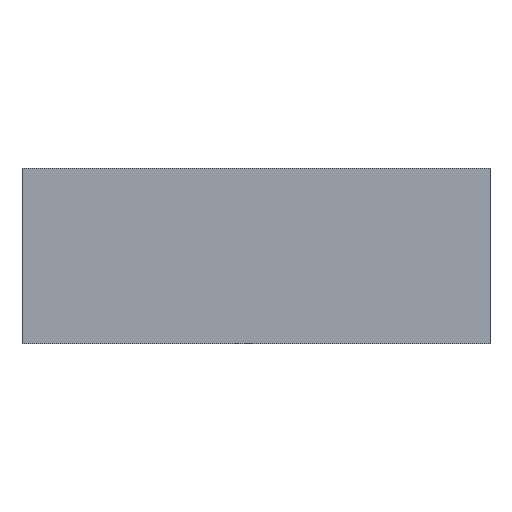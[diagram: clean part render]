
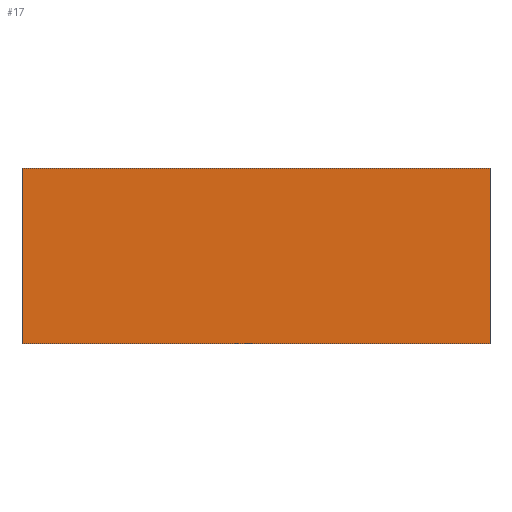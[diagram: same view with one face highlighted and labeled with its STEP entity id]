
A CAD part, front view. The second image highlights one B-rep face of the part: STEP entity #17.
In plain terms, the highlighted planar face has unit normal (0, -1, 0).
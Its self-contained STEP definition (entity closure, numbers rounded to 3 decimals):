
#17 = ADVANCED_FACE('',(#18),#32,.F.);
#18 = FACE_BOUND('',#19,.F.);
#19 = EDGE_LOOP('',(#20,#55,#83,#111));
#20 = ORIENTED_EDGE('',*,*,#21,.T.);
#21 = EDGE_CURVE('',#22,#24,#26,.T.);
#22 = VERTEX_POINT('',#23);
#23 = CARTESIAN_POINT('',(-10.,-370.,0.));
#24 = VERTEX_POINT('',#25);
#25 = CARTESIAN_POINT('',(-10.,-370.,7.5));
#26 = SURFACE_CURVE('',#27,(#31,#43),.PCURVE_S1.);
#27 = LINE('',#28,#29);
#28 = CARTESIAN_POINT('',(-10.,-370.,0.));
#29 = VECTOR('',#30,1.);
#30 = DIRECTION('',(0.,0.,1.));
#31 = PCURVE('',#32,#37);
#32 = PLANE('',#33);
#33 = AXIS2_PLACEMENT_3D('',#34,#35,#36);
#34 = CARTESIAN_POINT('',(-10.,-370.,0.));
#35 = DIRECTION('',(0.,1.,0.));
#36 = DIRECTION('',(1.,0.,0.));
#37 = DEFINITIONAL_REPRESENTATION('',(#38),#42);
#38 = LINE('',#39,#40);
#39 = CARTESIAN_POINT('',(0.,0.));
#40 = VECTOR('',#41,1.);
#41 = DIRECTION('',(0.,-1.));
#42 = ( GEOMETRIC_REPRESENTATION_CONTEXT(2) 
PARAMETRIC_REPRESENTATION_CONTEXT() REPRESENTATION_CONTEXT('2D SPACE',''
  ) );
#43 = PCURVE('',#44,#49);
#44 = PLANE('',#45);
#45 = AXIS2_PLACEMENT_3D('',#46,#47,#48);
#46 = CARTESIAN_POINT('',(-10.,370.,0.));
#47 = DIRECTION('',(1.,0.,-0.));
#48 = DIRECTION('',(0.,-1.,0.));
#49 = DEFINITIONAL_REPRESENTATION('',(#50),#54);
#50 = LINE('',#51,#52);
#51 = CARTESIAN_POINT('',(740.,0.));
#52 = VECTOR('',#53,1.);
#53 = DIRECTION('',(0.,-1.));
#54 = ( GEOMETRIC_REPRESENTATION_CONTEXT(2) 
PARAMETRIC_REPRESENTATION_CONTEXT() REPRESENTATION_CONTEXT('2D SPACE',''
  ) );
#55 = ORIENTED_EDGE('',*,*,#56,.T.);
#56 = EDGE_CURVE('',#24,#57,#59,.T.);
#57 = VERTEX_POINT('',#58);
#58 = CARTESIAN_POINT('',(10.,-370.,7.5));
#59 = SURFACE_CURVE('',#60,(#64,#71),.PCURVE_S1.);
#60 = LINE('',#61,#62);
#61 = CARTESIAN_POINT('',(-10.,-370.,7.5));
#62 = VECTOR('',#63,1.);
#63 = DIRECTION('',(1.,0.,0.));
#64 = PCURVE('',#32,#65);
#65 = DEFINITIONAL_REPRESENTATION('',(#66),#70);
#66 = LINE('',#67,#68);
#67 = CARTESIAN_POINT('',(0.,-7.5));
#68 = VECTOR('',#69,1.);
#69 = DIRECTION('',(1.,0.));
#70 = ( GEOMETRIC_REPRESENTATION_CONTEXT(2) 
PARAMETRIC_REPRESENTATION_CONTEXT() REPRESENTATION_CONTEXT('2D SPACE',''
  ) );
#71 = PCURVE('',#72,#77);
#72 = PLANE('',#73);
#73 = AXIS2_PLACEMENT_3D('',#74,#75,#76);
#74 = CARTESIAN_POINT('',(0.,0.,7.5));
#75 = DIRECTION('',(0.,0.,1.));
#76 = DIRECTION('',(1.,0.,-0.));
#77 = DEFINITIONAL_REPRESENTATION('',(#78),#82);
#78 = LINE('',#79,#80);
#79 = CARTESIAN_POINT('',(-10.,-370.));
#80 = VECTOR('',#81,1.);
#81 = DIRECTION('',(1.,0.));
#82 = ( GEOMETRIC_REPRESENTATION_CONTEXT(2) 
PARAMETRIC_REPRESENTATION_CONTEXT() REPRESENTATION_CONTEXT('2D SPACE',''
  ) );
#83 = ORIENTED_EDGE('',*,*,#84,.F.);
#84 = EDGE_CURVE('',#85,#57,#87,.T.);
#85 = VERTEX_POINT('',#86);
#86 = CARTESIAN_POINT('',(10.,-370.,0.));
#87 = SURFACE_CURVE('',#88,(#92,#99),.PCURVE_S1.);
#88 = LINE('',#89,#90);
#89 = CARTESIAN_POINT('',(10.,-370.,0.));
#90 = VECTOR('',#91,1.);
#91 = DIRECTION('',(0.,0.,1.));
#92 = PCURVE('',#32,#93);
#93 = DEFINITIONAL_REPRESENTATION('',(#94),#98);
#94 = LINE('',#95,#96);
#95 = CARTESIAN_POINT('',(20.,0.));
#96 = VECTOR('',#97,1.);
#97 = DIRECTION('',(0.,-1.));
#98 = ( GEOMETRIC_REPRESENTATION_CONTEXT(2) 
PARAMETRIC_REPRESENTATION_CONTEXT() REPRESENTATION_CONTEXT('2D SPACE',''
  ) );
#99 = PCURVE('',#100,#105);
#100 = PLANE('',#101);
#101 = AXIS2_PLACEMENT_3D('',#102,#103,#104);
#102 = CARTESIAN_POINT('',(10.,-370.,0.));
#103 = DIRECTION('',(-1.,0.,0.));
#104 = DIRECTION('',(0.,1.,0.));
#105 = DEFINITIONAL_REPRESENTATION('',(#106),#110);
#106 = LINE('',#107,#108);
#107 = CARTESIAN_POINT('',(0.,0.));
#108 = VECTOR('',#109,1.);
#109 = DIRECTION('',(0.,-1.));
#110 = ( GEOMETRIC_REPRESENTATION_CONTEXT(2) 
PARAMETRIC_REPRESENTATION_CONTEXT() REPRESENTATION_CONTEXT('2D SPACE',''
  ) );
#111 = ORIENTED_EDGE('',*,*,#112,.F.);
#112 = EDGE_CURVE('',#22,#85,#113,.T.);
#113 = SURFACE_CURVE('',#114,(#118,#125),.PCURVE_S1.);
#114 = LINE('',#115,#116);
#115 = CARTESIAN_POINT('',(-10.,-370.,0.));
#116 = VECTOR('',#117,1.);
#117 = DIRECTION('',(1.,0.,0.));
#118 = PCURVE('',#32,#119);
#119 = DEFINITIONAL_REPRESENTATION('',(#120),#124);
#120 = LINE('',#121,#122);
#121 = CARTESIAN_POINT('',(0.,0.));
#122 = VECTOR('',#123,1.);
#123 = DIRECTION('',(1.,0.));
#124 = ( GEOMETRIC_REPRESENTATION_CONTEXT(2) 
PARAMETRIC_REPRESENTATION_CONTEXT() REPRESENTATION_CONTEXT('2D SPACE',''
  ) );
#125 = PCURVE('',#126,#131);
#126 = PLANE('',#127);
#127 = AXIS2_PLACEMENT_3D('',#128,#129,#130);
#128 = CARTESIAN_POINT('',(0.,0.,0.));
#129 = DIRECTION('',(0.,0.,1.));
#130 = DIRECTION('',(1.,0.,-0.));
#131 = DEFINITIONAL_REPRESENTATION('',(#132),#136);
#132 = LINE('',#133,#134);
#133 = CARTESIAN_POINT('',(-10.,-370.));
#134 = VECTOR('',#135,1.);
#135 = DIRECTION('',(1.,0.));
#136 = ( GEOMETRIC_REPRESENTATION_CONTEXT(2) 
PARAMETRIC_REPRESENTATION_CONTEXT() REPRESENTATION_CONTEXT('2D SPACE',''
  ) );
